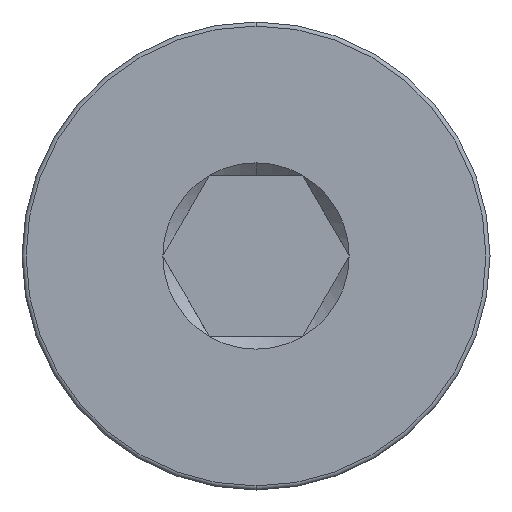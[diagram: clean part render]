
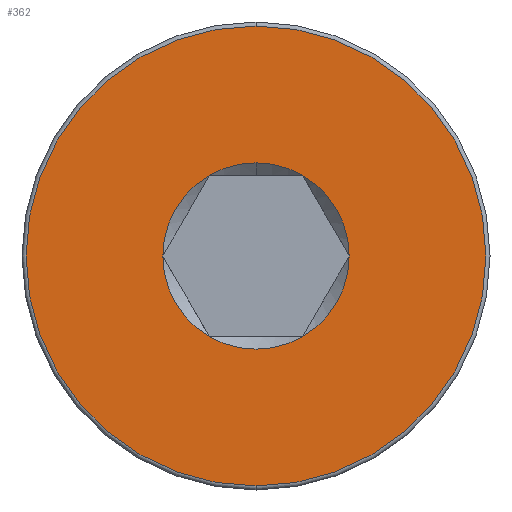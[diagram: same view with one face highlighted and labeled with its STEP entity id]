
A CAD part, left-side view. The second image highlights one B-rep face of the part: STEP entity #362.
In plain terms, the highlighted planar face has unit normal (-1, 0, 0).
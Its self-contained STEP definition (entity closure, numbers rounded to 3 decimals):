
#2 = DIRECTION ( 'NONE',  ( 1., 0., 0. ) ) ;
#8 = CIRCLE ( 'NONE', #611, 1.155 ) ;
#11 = EDGE_CURVE ( 'NONE', #389, #294, #317, .T. ) ;
#12 = CIRCLE ( 'NONE', #117, 1.155 ) ;
#15 = DIRECTION ( 'NONE',  ( 0., 0., -1. ) ) ;
#23 = DIRECTION ( 'NONE',  ( 0., 0., -1. ) ) ;
#30 = CARTESIAN_POINT ( 'NONE',  ( 0., 0., 1.155 ) ) ;
#34 = VERTEX_POINT ( 'NONE', #30 ) ;
#36 = AXIS2_PLACEMENT_3D ( 'NONE', #198, #560, #126 ) ;
#49 = DIRECTION ( 'NONE',  ( 1., 0., 0. ) ) ;
#62 = EDGE_LOOP ( 'NONE', ( #200, #753, #688, #510, #700, #467, #575 ) ) ;
#63 = DIRECTION ( 'NONE',  ( 1., 0., 0. ) ) ;
#78 = EDGE_CURVE ( 'NONE', #576, #581, #442, .T. ) ;
#85 = DIRECTION ( 'NONE',  ( 1., 0., 0. ) ) ;
#115 = CARTESIAN_POINT ( 'NONE',  ( 0., 0., 0. ) ) ;
#117 = AXIS2_PLACEMENT_3D ( 'NONE', #436, #262, #322 ) ;
#126 = DIRECTION ( 'NONE',  ( 0., 0., 1. ) ) ;
#142 = CIRCLE ( 'NONE', #768, 1.155 ) ;
#156 = EDGE_CURVE ( 'NONE', #581, #305, #12, .T. ) ;
#169 = CARTESIAN_POINT ( 'NONE',  ( 0., 0., 0. ) ) ;
#177 = DIRECTION ( 'NONE',  ( 0., 0., -1. ) ) ;
#192 = CARTESIAN_POINT ( 'NONE',  ( 0., 0., 0. ) ) ;
#198 = CARTESIAN_POINT ( 'NONE',  ( 0., 0., 0. ) ) ;
#200 = ORIENTED_EDGE ( 'NONE', *, *, #435, .T. ) ;
#211 = CIRCLE ( 'NONE', #555, 1.155 ) ;
#215 = CARTESIAN_POINT ( 'NONE',  ( 0., 1.155, 0. ) ) ;
#228 = AXIS2_PLACEMENT_3D ( 'NONE', #715, #2, #721 ) ;
#230 = ORIENTED_EDGE ( 'NONE', *, *, #11, .T. ) ;
#247 = DIRECTION ( 'NONE',  ( 1., 0., 0. ) ) ;
#260 = EDGE_CURVE ( 'NONE', #726, #576, #586, .T. ) ;
#262 = DIRECTION ( 'NONE',  ( 1., 0., 0. ) ) ;
#263 = DIRECTION ( 'NONE',  ( 0., 0., 1. ) ) ;
#294 = VERTEX_POINT ( 'NONE', #525 ) ;
#305 = VERTEX_POINT ( 'NONE', #215 ) ;
#317 = CIRCLE ( 'NONE', #696, 2.85 ) ;
#322 = DIRECTION ( 'NONE',  ( 0., 0., -1. ) ) ;
#326 = CARTESIAN_POINT ( 'NONE',  ( 0., 0., 0. ) ) ;
#328 = DIRECTION ( 'NONE',  ( -1., 0., 0. ) ) ;
#352 = CARTESIAN_POINT ( 'NONE',  ( 0., -1.155, 0. ) ) ;
#355 = FACE_BOUND ( 'NONE', #62, .T. ) ;
#362 = ADVANCED_FACE ( 'NONE', ( #522, #355 ), #755, .T. ) ;
#379 = AXIS2_PLACEMENT_3D ( 'NONE', #397, #85, #15 ) ;
#389 = VERTEX_POINT ( 'NONE', #403 ) ;
#394 = AXIS2_PLACEMENT_3D ( 'NONE', #115, #49, #177 ) ;
#397 = CARTESIAN_POINT ( 'NONE',  ( 0., 0., 0. ) ) ;
#403 = CARTESIAN_POINT ( 'NONE',  ( 0., 0., -2.85 ) ) ;
#434 = CARTESIAN_POINT ( 'NONE',  ( 0., -0.577, 1. ) ) ;
#435 = EDGE_CURVE ( 'NONE', #305, #450, #756, .T. ) ;
#436 = CARTESIAN_POINT ( 'NONE',  ( 0., 0., 0. ) ) ;
#442 = CIRCLE ( 'NONE', #228, 1.155 ) ;
#450 = VERTEX_POINT ( 'NONE', #531 ) ;
#467 = ORIENTED_EDGE ( 'NONE', *, *, #78, .T. ) ;
#492 = EDGE_CURVE ( 'NONE', #34, #591, #142, .T. ) ;
#510 = ORIENTED_EDGE ( 'NONE', *, *, #655, .T. ) ;
#521 = EDGE_LOOP ( 'NONE', ( #731, #230 ) ) ;
#522 = FACE_OUTER_BOUND ( 'NONE', #521, .T. ) ;
#525 = CARTESIAN_POINT ( 'NONE',  ( 0., 0., 2.85 ) ) ;
#531 = CARTESIAN_POINT ( 'NONE',  ( 0., 0.577, 1. ) ) ;
#550 = DIRECTION ( 'NONE',  ( 0., 0., -1. ) ) ;
#555 = AXIS2_PLACEMENT_3D ( 'NONE', #326, #247, #23 ) ;
#560 = DIRECTION ( 'NONE',  ( -1., 0., 0. ) ) ;
#575 = ORIENTED_EDGE ( 'NONE', *, *, #156, .T. ) ;
#576 = VERTEX_POINT ( 'NONE', #675 ) ;
#581 = VERTEX_POINT ( 'NONE', #615 ) ;
#586 = CIRCLE ( 'NONE', #379, 1.155 ) ;
#591 = VERTEX_POINT ( 'NONE', #434 ) ;
#592 = CARTESIAN_POINT ( 'NONE',  ( 0., 0., 0. ) ) ;
#605 = DIRECTION ( 'NONE',  ( 1., 0., 0. ) ) ;
#611 = AXIS2_PLACEMENT_3D ( 'NONE', #192, #63, #550 ) ;
#615 = CARTESIAN_POINT ( 'NONE',  ( 0., 0.577, -1. ) ) ;
#631 = EDGE_CURVE ( 'NONE', #294, #389, #689, .T. ) ;
#639 = AXIS2_PLACEMENT_3D ( 'NONE', #592, #695, #644 ) ;
#644 = DIRECTION ( 'NONE',  ( 0., 0., 1. ) ) ;
#655 = EDGE_CURVE ( 'NONE', #591, #726, #8, .T. ) ;
#675 = CARTESIAN_POINT ( 'NONE',  ( 0., -0.577, -1. ) ) ;
#683 = EDGE_CURVE ( 'NONE', #450, #34, #211, .T. ) ;
#688 = ORIENTED_EDGE ( 'NONE', *, *, #492, .T. ) ;
#689 = CIRCLE ( 'NONE', #36, 2.85 ) ;
#695 = DIRECTION ( 'NONE',  ( -1., 0., 0. ) ) ;
#696 = AXIS2_PLACEMENT_3D ( 'NONE', #747, #328, #263 ) ;
#700 = ORIENTED_EDGE ( 'NONE', *, *, #260, .T. ) ;
#715 = CARTESIAN_POINT ( 'NONE',  ( 0., 0., 0. ) ) ;
#721 = DIRECTION ( 'NONE',  ( 0., 0., -1. ) ) ;
#726 = VERTEX_POINT ( 'NONE', #352 ) ;
#731 = ORIENTED_EDGE ( 'NONE', *, *, #631, .T. ) ;
#747 = CARTESIAN_POINT ( 'NONE',  ( 0., 0., 0. ) ) ;
#753 = ORIENTED_EDGE ( 'NONE', *, *, #683, .T. ) ;
#755 = PLANE ( 'NONE',  #639 ) ;
#756 = CIRCLE ( 'NONE', #394, 1.155 ) ;
#768 = AXIS2_PLACEMENT_3D ( 'NONE', #169, #605, #776 ) ;
#776 = DIRECTION ( 'NONE',  ( 0., 0., -1. ) ) ;
